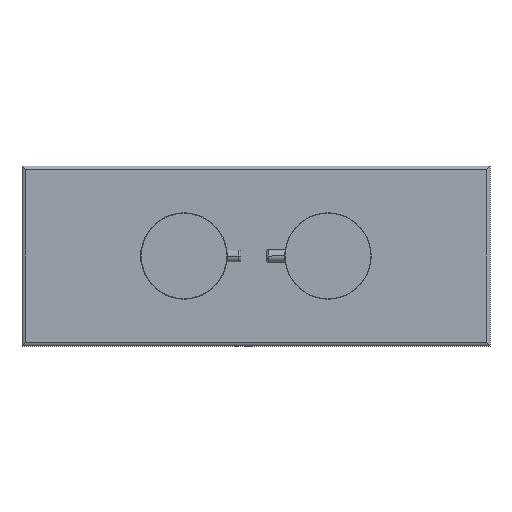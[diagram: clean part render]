
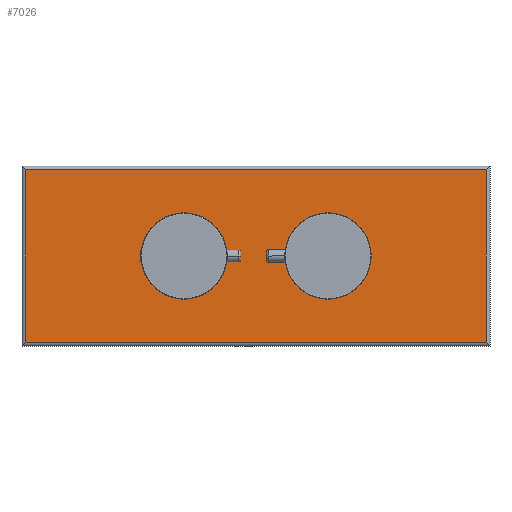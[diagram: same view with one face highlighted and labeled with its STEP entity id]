
A CAD part, left-side view. The second image highlights one B-rep face of the part: STEP entity #7026.
In plain terms, the highlighted planar face has unit normal (-1, 0, 0).
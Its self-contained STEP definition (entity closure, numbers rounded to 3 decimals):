
#2952=CARTESIAN_POINT('',(-26.6,0.,0.));
#2953=DIRECTION('',(1.,0.,0.));
#2954=DIRECTION('',(0.,0.,-1.));
#2955=AXIS2_PLACEMENT_3D('',#2952,#2953,#2954);
#2966=DIRECTION('',(0.,0.,-1.));
#2967=VECTOR('',#2966,96.);
#2968=CARTESIAN_POINT('',(-26.6,88.,48.));
#2969=LINE('',#2968,#2967);
#2970=DIRECTION('',(0.,1.,0.));
#2971=VECTOR('',#2970,256.);
#2972=CARTESIAN_POINT('',(-26.6,-168.,48.));
#2973=LINE('',#2972,#2971);
#2974=DIRECTION('',(0.,0.,1.));
#2975=VECTOR('',#2974,96.);
#2976=CARTESIAN_POINT('',(-26.6,-168.,-48.));
#2977=LINE('',#2976,#2975);
#2978=DIRECTION('',(0.,-1.,0.));
#2979=VECTOR('',#2978,256.);
#2980=CARTESIAN_POINT('',(-26.6,88.,-48.));
#2981=LINE('',#2980,#2979);
#3146=CARTESIAN_POINT('',(-26.6,0.,0.));
#3147=DIRECTION('',(1.,0.,0.));
#3148=DIRECTION('',(0.,0.,1.));
#3149=AXIS2_PLACEMENT_3D('',#3146,#3147,#3148);
#3160=CARTESIAN_POINT('',(-26.6,-80.,0.));
#3161=DIRECTION('',(-1.,0.,0.));
#3162=DIRECTION('',(0.,0.,1.));
#3163=AXIS2_PLACEMENT_3D('',#3160,#3161,#3162);
#3170=CARTESIAN_POINT('',(-26.6,-80.,0.));
#3171=DIRECTION('',(-1.,0.,0.));
#3172=DIRECTION('',(0.,0.,-1.));
#3173=AXIS2_PLACEMENT_3D('',#3170,#3171,#3172);
#3543=CARTESIAN_POINT('',(-26.6,88.,48.));
#3544=CARTESIAN_POINT('',(-26.6,88.,-48.));
#3545=VERTEX_POINT('',#3543);
#3546=VERTEX_POINT('',#3544);
#3549=CARTESIAN_POINT('',(-26.6,-168.,48.));
#3550=VERTEX_POINT('',#3549);
#3553=CARTESIAN_POINT('',(-26.6,-168.,-48.));
#3554=VERTEX_POINT('',#3553);
#4160=CARTESIAN_POINT('',(-26.6,0.,-20.35));
#4161=CARTESIAN_POINT('',(-26.6,0.,20.35));
#4162=VERTEX_POINT('',#4160);
#4163=VERTEX_POINT('',#4161);
#4164=CARTESIAN_POINT('',(-26.6,-80.,20.35));
#4165=CARTESIAN_POINT('',(-26.6,-80.,-20.35));
#4166=VERTEX_POINT('',#4164);
#4167=VERTEX_POINT('',#4165);
#7000=CARTESIAN_POINT('',(-26.6,-40.,0.));
#7001=DIRECTION('',(-1.,0.,0.));
#7002=DIRECTION('',(0.,1.,0.));
#7003=AXIS2_PLACEMENT_3D('',#7000,#7001,#7002);
#7004=PLANE('',#7003);
#7006=ORIENTED_EDGE('',*,*,#7005,.F.);
#7008=ORIENTED_EDGE('',*,*,#7007,.F.);
#7010=ORIENTED_EDGE('',*,*,#7009,.F.);
#7012=ORIENTED_EDGE('',*,*,#7011,.F.);
#7013=EDGE_LOOP('',(#7006,#7008,#7010,#7012));
#7014=FACE_OUTER_BOUND('',#7013,.F.);
#7015=ORIENTED_EDGE('',*,*,#6990,.F.);
#7017=ORIENTED_EDGE('',*,*,#7016,.F.);
#7018=EDGE_LOOP('',(#7015,#7017));
#7019=FACE_BOUND('',#7018,.F.);
#7021=ORIENTED_EDGE('',*,*,#7020,.T.);
#7023=ORIENTED_EDGE('',*,*,#7022,.T.);
#7024=EDGE_LOOP('',(#7021,#7023));
#7025=FACE_BOUND('',#7024,.F.);
#7026=ADVANCED_FACE('',(#7014,#7019,#7025),#7004,.T.);
#2956=CIRCLE('',#2955,20.35);
#3150=CIRCLE('',#3149,20.35);
#3164=CIRCLE('',#3163,20.35);
#3174=CIRCLE('',#3173,20.35);
#6990=EDGE_CURVE('',#4162,#4163,#2956,.T.);
#7005=EDGE_CURVE('',#3545,#3546,#2969,.T.);
#7007=EDGE_CURVE('',#3550,#3545,#2973,.T.);
#7009=EDGE_CURVE('',#3554,#3550,#2977,.T.);
#7011=EDGE_CURVE('',#3546,#3554,#2981,.T.);
#7016=EDGE_CURVE('',#4163,#4162,#3150,.T.);
#7020=EDGE_CURVE('',#4166,#4167,#3164,.T.);
#7022=EDGE_CURVE('',#4167,#4166,#3174,.T.);
